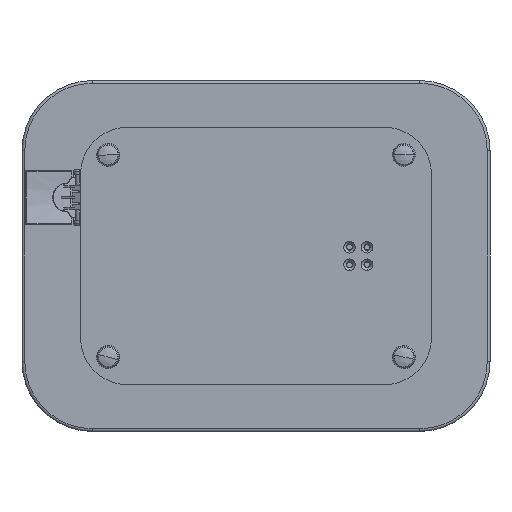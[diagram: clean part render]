
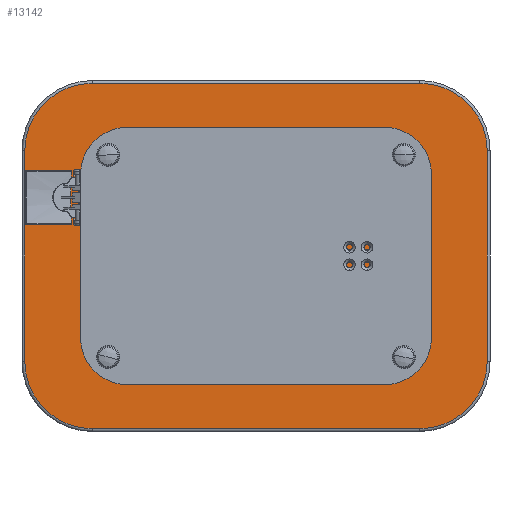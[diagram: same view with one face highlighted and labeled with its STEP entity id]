
A CAD part, front view. The second image highlights one B-rep face of the part: STEP entity #13142.
In plain terms, the highlighted planar face has unit normal (0, -1, 0).
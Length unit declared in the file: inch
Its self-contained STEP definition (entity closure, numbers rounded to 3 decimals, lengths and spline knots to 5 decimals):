
#463 = LINE ( 'NONE', #12813, #7124 ) ;
#528 = DIRECTION ( 'NONE',  ( 0., 0., -1. ) ) ;
#583 = CARTESIAN_POINT ( 'NONE',  ( -9.88189, 0., -4.5 ) ) ;
#639 = ORIENTED_EDGE ( 'NONE', *, *, #5243, .F. ) ;
#657 = DIRECTION ( 'NONE',  ( 0., -1., 0. ) ) ;
#905 = CARTESIAN_POINT ( 'NONE',  ( -9.88189, 0., -4.5 ) ) ;
#1082 = AXIS2_PLACEMENT_3D ( 'NONE', #3497, #657, #528 ) ;
#1209 = ORIENTED_EDGE ( 'NONE', *, *, #5530, .F. ) ;
#1349 = LINE ( 'NONE', #3361, #5620 ) ;
#1592 = EDGE_CURVE ( 'NONE', #8706, #10651, #2089, .T. ) ;
#1969 = VERTEX_POINT ( 'NONE', #7039 ) ;
#2089 = LINE ( 'NONE', #6126, #2951 ) ;
#2145 = EDGE_CURVE ( 'NONE', #10643, #2812, #7903, .T. ) ;
#2423 = DIRECTION ( 'NONE',  ( 1., 0., 0. ) ) ;
#2504 = ORIENTED_EDGE ( 'NONE', *, *, #1592, .F. ) ;
#2812 = VERTEX_POINT ( 'NONE', #5990 ) ;
#2951 = VECTOR ( 'NONE', #11078, 39.37008 ) ;
#3059 = CIRCLE ( 'NONE', #4136, 2.88189 ) ;
#3144 = DIRECTION ( 'NONE',  ( 0., 0., 1. ) ) ;
#3225 = VERTEX_POINT ( 'NONE', #583 ) ;
#3246 = EDGE_CURVE ( 'NONE', #7057, #1969, #8229, .T. ) ;
#3361 = CARTESIAN_POINT ( 'NONE',  ( -7., 0., 7.38189 ) ) ;
#3497 = CARTESIAN_POINT ( 'NONE',  ( 0., 0., 0. ) ) ;
#3520 = VERTEX_POINT ( 'NONE', #10238 ) ;
#3585 = DIRECTION ( 'NONE',  ( 0., 0., 1. ) ) ;
#4136 = AXIS2_PLACEMENT_3D ( 'NONE', #12586, #5224, #9442 ) ;
#4808 = CARTESIAN_POINT ( 'NONE',  ( -9.88189, 0., 4.5 ) ) ;
#5061 = DIRECTION ( 'NONE',  ( 0., 0., 1. ) ) ;
#5093 = ORIENTED_EDGE ( 'NONE', *, *, #6368, .F. ) ;
#5224 = DIRECTION ( 'NONE',  ( 0., 1., 0. ) ) ;
#5243 = EDGE_CURVE ( 'NONE', #1969, #3520, #463, .T. ) ;
#5530 = EDGE_CURVE ( 'NONE', #3225, #10643, #11672, .T. ) ;
#5620 = VECTOR ( 'NONE', #2423, 39.37008 ) ;
#5653 = AXIS2_PLACEMENT_3D ( 'NONE', #10254, #12348, #3144 ) ;
#5927 = ORIENTED_EDGE ( 'NONE', *, *, #2145, .F. ) ;
#5990 = CARTESIAN_POINT ( 'NONE',  ( -7., 0., 7.38189 ) ) ;
#6126 = CARTESIAN_POINT ( 'NONE',  ( 7., 0., -7.38189 ) ) ;
#6368 = EDGE_CURVE ( 'NONE', #2812, #7057, #1349, .T. ) ;
#6546 = ORIENTED_EDGE ( 'NONE', *, *, #10394, .F. ) ;
#6610 = CARTESIAN_POINT ( 'NONE',  ( -7., 0., 4.5 ) ) ;
#6711 = PLANE ( 'NONE',  #1082 ) ;
#6866 = DIRECTION ( 'NONE',  ( 0., 1., 0. ) ) ;
#7039 = CARTESIAN_POINT ( 'NONE',  ( 9.88189, 0., 4.5 ) ) ;
#7057 = VERTEX_POINT ( 'NONE', #9570 ) ;
#7124 = VECTOR ( 'NONE', #8129, 39.37008 ) ;
#7903 = CIRCLE ( 'NONE', #12396, 2.88189 ) ;
#7950 = CARTESIAN_POINT ( 'NONE',  ( -7., 0., -4.5 ) ) ;
#8129 = DIRECTION ( 'NONE',  ( 0., 0., -1. ) ) ;
#8229 = CIRCLE ( 'NONE', #5653, 2.88189 ) ;
#8706 = VERTEX_POINT ( 'NONE', #12477 ) ;
#9442 = DIRECTION ( 'NONE',  ( 0., 0., 1. ) ) ;
#9570 = CARTESIAN_POINT ( 'NONE',  ( 7., 0., 7.38189 ) ) ;
#9730 = FACE_OUTER_BOUND ( 'NONE', #11895, .T. ) ;
#9968 = DIRECTION ( 'NONE',  ( 0., 0., 1. ) ) ;
#10238 = CARTESIAN_POINT ( 'NONE',  ( 9.88189, 0., -4.5 ) ) ;
#10254 = CARTESIAN_POINT ( 'NONE',  ( 7., 0., 4.5 ) ) ;
#10394 = EDGE_CURVE ( 'NONE', #3520, #8706, #3059, .T. ) ;
#10643 = VERTEX_POINT ( 'NONE', #4808 ) ;
#10651 = VERTEX_POINT ( 'NONE', #12123 ) ;
#11078 = DIRECTION ( 'NONE',  ( -1., 0., 0. ) ) ;
#11112 = EDGE_CURVE ( 'NONE', #10651, #3225, #13257, .T. ) ;
#11426 = VECTOR ( 'NONE', #9968, 39.37008 ) ;
#11672 = LINE ( 'NONE', #905, #11426 ) ;
#11827 = ORIENTED_EDGE ( 'NONE', *, *, #11112, .F. ) ;
#11895 = EDGE_LOOP ( 'NONE', ( #1209, #11827, #2504, #6546, #639, #13254, #5093, #5927 ) ) ;
#12123 = CARTESIAN_POINT ( 'NONE',  ( -7., 0., -7.38189 ) ) ;
#12348 = DIRECTION ( 'NONE',  ( 0., 1., 0. ) ) ;
#12396 = AXIS2_PLACEMENT_3D ( 'NONE', #6610, #12780, #3585 ) ;
#12477 = CARTESIAN_POINT ( 'NONE',  ( 7., 0., -7.38189 ) ) ;
#12586 = CARTESIAN_POINT ( 'NONE',  ( 7., 0., -4.5 ) ) ;
#12780 = DIRECTION ( 'NONE',  ( 0., 1., 0. ) ) ;
#12813 = CARTESIAN_POINT ( 'NONE',  ( 9.88189, 0., 4.5 ) ) ;
#13038 = AXIS2_PLACEMENT_3D ( 'NONE', #7950, #6866, #5061 ) ;
#13142 = ADVANCED_FACE ( 'NONE', ( #9730 ), #6711, .T. ) ;
#13254 = ORIENTED_EDGE ( 'NONE', *, *, #3246, .F. ) ;
#13257 = CIRCLE ( 'NONE', #13038, 2.88189 ) ;
